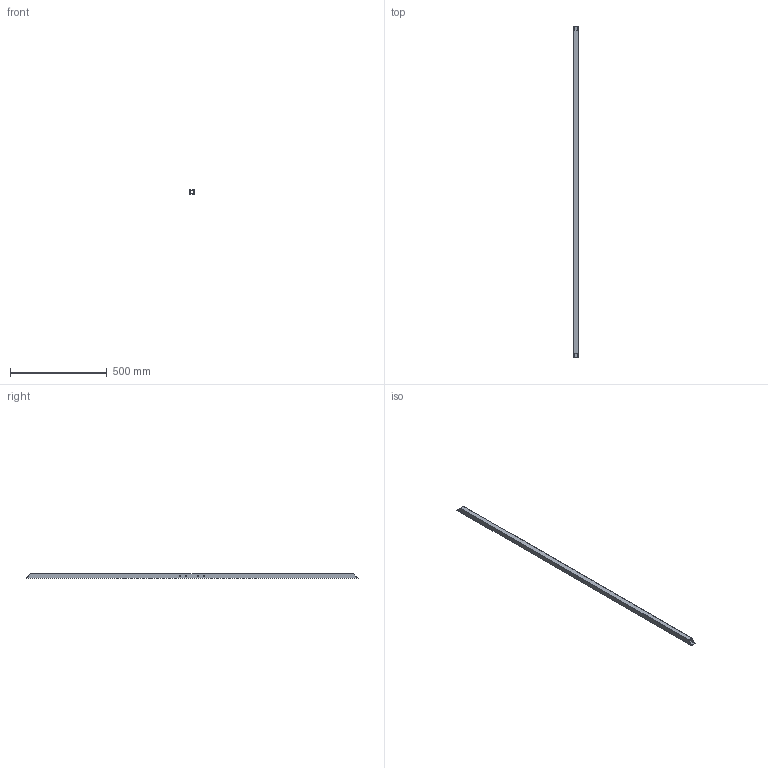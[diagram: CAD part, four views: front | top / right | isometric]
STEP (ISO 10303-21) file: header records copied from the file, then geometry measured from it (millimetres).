
FILE_DESCRIPTION(('FreeCAD Model'),'2;1');
FILE_NAME('Open CASCADE Shape Model','2026-10-06T09:33:39',('FreeCAD'),( 'FreeCAD'),'Open CASCADE STEP processor 7.8','FreeCAD','Unknown');
FILE_SCHEMA(('AUTOMOTIVE_DESIGN { 1 0 10303 214 1 1 1 1 }'));
Length unit declared in the file: millimetre
Products named in the file (1): Open CASCADE STEP translator 7.8 85
Bounding box: 25.4 x 1715.12 x 25.4 mm (x, y, z)
Volume: 476014.8 mm3; surface area: 301192.8 mm2
Topology: 1 solids, 1 shells, 18 faces, 48 edges, 32 vertices
Faces by surface type: plane 10, cylinder 8
Full cylindrical faces by diameter (mm): 6.8 x8
Entity records: 614 total; most frequent: DIRECTION 102, CARTESIAN_POINT 99, ORIENTED_EDGE 96, EDGE_CURVE 48, FACE_BOUND 36, EDGE_LOOP 36, AXIS2_PLACEMENT_3D 35, VERTEX_POINT 32
